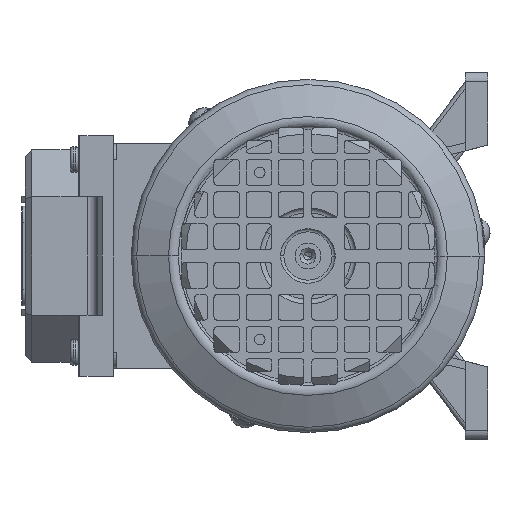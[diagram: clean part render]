
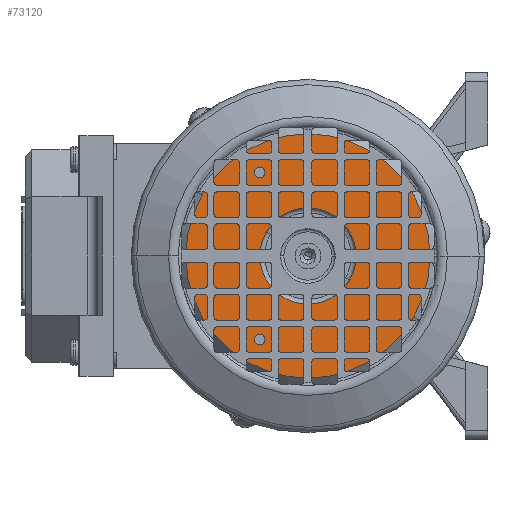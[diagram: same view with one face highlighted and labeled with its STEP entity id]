
A CAD part, left-side view. The second image highlights one B-rep face of the part: STEP entity #73120.
In plain terms, the highlighted planar face has unit normal (-1, 0, 0).
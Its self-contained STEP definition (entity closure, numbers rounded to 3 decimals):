
#541 = VERTEX_POINT ( 'NONE', #66409 ) ;
#884 = FACE_OUTER_BOUND ( 'NONE', #44039, .T. ) ;
#1046 = AXIS2_PLACEMENT_3D ( 'NONE', #9887, #55520, #16468 ) ;
#3051 = CARTESIAN_POINT ( 'NONE',  ( 0., 0., 0. ) ) ;
#4274 = DIRECTION ( 'NONE',  ( -1., 0., 0. ) ) ;
#4677 = EDGE_CURVE ( 'NONE', #31930, #13411, #70919, .T. ) ;
#4754 = VERTEX_POINT ( 'NONE', #62914 ) ;
#5247 = CARTESIAN_POINT ( 'NONE',  ( 0., 0., -15. ) ) ;
#6189 = CARTESIAN_POINT ( 'NONE',  ( 0., 0., 0. ) ) ;
#9642 = DIRECTION ( 'NONE',  ( 0., 0., 1. ) ) ;
#9671 = AXIS2_PLACEMENT_3D ( 'NONE', #17510, #63121, #24069 ) ;
#9887 = CARTESIAN_POINT ( 'NONE',  ( 0., 15., -25.981 ) ) ;
#10394 = AXIS2_PLACEMENT_3D ( 'NONE', #28463, #54441, #35035 ) ;
#12021 = VERTEX_POINT ( 'NONE', #52872 ) ;
#12047 = EDGE_CURVE ( 'NONE', #25997, #32640, #61803, .T. ) ;
#12775 = DIRECTION ( 'NONE',  ( 0., 0., 1. ) ) ;
#13411 = VERTEX_POINT ( 'NONE', #69471 ) ;
#15660 = CARTESIAN_POINT ( 'NONE',  ( 0., -30., 0. ) ) ;
#16209 = ORIENTED_EDGE ( 'NONE', *, *, #52742, .F. ) ;
#16231 = FACE_BOUND ( 'NONE', #64197, .T. ) ;
#16468 = DIRECTION ( 'NONE',  ( 0., 0., 1. ) ) ;
#17510 = CARTESIAN_POINT ( 'NONE',  ( 0., 0., 0. ) ) ;
#18300 = FACE_BOUND ( 'NONE', #38720, .T. ) ;
#19924 = DIRECTION ( 'NONE',  ( -1., 0., 0. ) ) ;
#20282 = EDGE_CURVE ( 'NONE', #12021, #36743, #70745, .T. ) ;
#20830 = EDGE_CURVE ( 'NONE', #42701, #66001, #45906, .T. ) ;
#22243 = DIRECTION ( 'NONE',  ( -1., 0., 0. ) ) ;
#22246 = DIRECTION ( 'NONE',  ( 0., 0., 1. ) ) ;
#23239 = EDGE_CURVE ( 'NONE', #13411, #31930, #48614, .T. ) ;
#24069 = DIRECTION ( 'NONE',  ( 0., 0., 1. ) ) ;
#24297 = CARTESIAN_POINT ( 'NONE',  ( 0., 15., -25.981 ) ) ;
#25997 = VERTEX_POINT ( 'NONE', #60421 ) ;
#26269 = AXIS2_PLACEMENT_3D ( 'NONE', #3051, #48726, #9642 ) ;
#27931 = EDGE_LOOP ( 'NONE', ( #16209, #78043 ) ) ;
#28463 = CARTESIAN_POINT ( 'NONE',  ( 0., 38., 0. ) ) ;
#30836 = DIRECTION ( 'NONE',  ( 0., 0., 1. ) ) ;
#31930 = VERTEX_POINT ( 'NONE', #45606 ) ;
#32640 = VERTEX_POINT ( 'NONE', #71281 ) ;
#33750 = CARTESIAN_POINT ( 'NONE',  ( 0., -30., 0. ) ) ;
#34019 = CIRCLE ( 'NONE', #9671, 38. ) ;
#35035 = DIRECTION ( 'NONE',  ( 0., 0., -1. ) ) ;
#36323 = ORIENTED_EDGE ( 'NONE', *, *, #20830, .T. ) ;
#36743 = VERTEX_POINT ( 'NONE', #5247 ) ;
#38389 = EDGE_CURVE ( 'NONE', #4754, #541, #71555, .T. ) ;
#38447 = ORIENTED_EDGE ( 'NONE', *, *, #20282, .F. ) ;
#38720 = EDGE_LOOP ( 'NONE', ( #56063, #49376 ) ) ;
#39835 = ORIENTED_EDGE ( 'NONE', *, *, #77977, .T. ) ;
#40261 = DIRECTION ( 'NONE',  ( 0., 0., 1. ) ) ;
#41479 = ORIENTED_EDGE ( 'NONE', *, *, #23239, .F. ) ;
#42701 = VERTEX_POINT ( 'NONE', #42781 ) ;
#42781 = CARTESIAN_POINT ( 'NONE',  ( 0., 0., 38. ) ) ;
#43279 = CIRCLE ( 'NONE', #70828, 1.65 ) ;
#43348 = CARTESIAN_POINT ( 'NONE',  ( 0., 0., 0. ) ) ;
#44039 = EDGE_LOOP ( 'NONE', ( #36323, #39835 ) ) ;
#45182 = EDGE_LOOP ( 'NONE', ( #38447, #58256 ) ) ;
#45606 = CARTESIAN_POINT ( 'NONE',  ( 0., 15., -27.631 ) ) ;
#45906 = CIRCLE ( 'NONE', #26269, 38. ) ;
#46016 = CIRCLE ( 'NONE', #49514, 1.65 ) ;
#48614 = CIRCLE ( 'NONE', #77222, 1.65 ) ;
#48651 = AXIS2_PLACEMENT_3D ( 'NONE', #6189, #51871, #12775 ) ;
#48726 = DIRECTION ( 'NONE',  ( -1., 0., 0. ) ) ;
#49376 = ORIENTED_EDGE ( 'NONE', *, *, #12047, .F. ) ;
#49514 = AXIS2_PLACEMENT_3D ( 'NONE', #15660, #61280, #22246 ) ;
#49968 = DIRECTION ( 'NONE',  ( 0., 0., 1. ) ) ;
#51384 = AXIS2_PLACEMENT_3D ( 'NONE', #43348, #4274, #49968 ) ;
#51871 = DIRECTION ( 'NONE',  ( -1., 0., 0. ) ) ;
#52742 = EDGE_CURVE ( 'NONE', #541, #4754, #43279, .T. ) ;
#52872 = CARTESIAN_POINT ( 'NONE',  ( 0., 0., 15. ) ) ;
#54441 = DIRECTION ( 'NONE',  ( 1., 0., 0. ) ) ;
#55520 = DIRECTION ( 'NONE',  ( -1., 0., 0. ) ) ;
#56063 = ORIENTED_EDGE ( 'NONE', *, *, #60099, .F. ) ;
#58256 = ORIENTED_EDGE ( 'NONE', *, *, #63305, .F. ) ;
#58813 = CIRCLE ( 'NONE', #48651, 15. ) ;
#58956 = CARTESIAN_POINT ( 'NONE',  ( 0., 15., 25.981 ) ) ;
#58965 = AXIS2_PLACEMENT_3D ( 'NONE', #33750, #79376, #40261 ) ;
#60099 = EDGE_CURVE ( 'NONE', #32640, #25997, #46016, .T. ) ;
#60421 = CARTESIAN_POINT ( 'NONE',  ( 0., -30., -1.65 ) ) ;
#61271 = CARTESIAN_POINT ( 'NONE',  ( 0., 15., 25.981 ) ) ;
#61280 = DIRECTION ( 'NONE',  ( -1., 0., 0. ) ) ;
#61803 = CIRCLE ( 'NONE', #58965, 1.65 ) ;
#62914 = CARTESIAN_POINT ( 'NONE',  ( 0., 15., 24.331 ) ) ;
#63121 = DIRECTION ( 'NONE',  ( -1., 0., 0. ) ) ;
#63305 = EDGE_CURVE ( 'NONE', #36743, #12021, #58813, .T. ) ;
#64197 = EDGE_LOOP ( 'NONE', ( #41479, #73299 ) ) ;
#65531 = DIRECTION ( 'NONE',  ( 0., 0., 1. ) ) ;
#66001 = VERTEX_POINT ( 'NONE', #66963 ) ;
#66266 = FACE_BOUND ( 'NONE', #27931, .T. ) ;
#66409 = CARTESIAN_POINT ( 'NONE',  ( 0., 15., 27.631 ) ) ;
#66963 = CARTESIAN_POINT ( 'NONE',  ( 0., 0., -38. ) ) ;
#67192 = AXIS2_PLACEMENT_3D ( 'NONE', #61271, #22243, #67878 ) ;
#67597 = PLANE ( 'NONE',  #10394 ) ;
#67878 = DIRECTION ( 'NONE',  ( 0., 0., 1. ) ) ;
#69471 = CARTESIAN_POINT ( 'NONE',  ( 0., 15., -24.331 ) ) ;
#69983 = DIRECTION ( 'NONE',  ( -1., 0., 0. ) ) ;
#70745 = CIRCLE ( 'NONE', #51384, 15. ) ;
#70828 = AXIS2_PLACEMENT_3D ( 'NONE', #58956, #19924, #65531 ) ;
#70919 = CIRCLE ( 'NONE', #1046, 1.65 ) ;
#71281 = CARTESIAN_POINT ( 'NONE',  ( 0., -30., 1.65 ) ) ;
#71555 = CIRCLE ( 'NONE', #67192, 1.65 ) ;
#73120 = ADVANCED_FACE ( 'NONE', ( #16231, #66266, #18300, #83596, #884 ), #67597, .F. ) ;
#73299 = ORIENTED_EDGE ( 'NONE', *, *, #4677, .F. ) ;
#77222 = AXIS2_PLACEMENT_3D ( 'NONE', #24297, #69983, #30836 ) ;
#77977 = EDGE_CURVE ( 'NONE', #66001, #42701, #34019, .T. ) ;
#78043 = ORIENTED_EDGE ( 'NONE', *, *, #38389, .F. ) ;
#79376 = DIRECTION ( 'NONE',  ( -1., 0., 0. ) ) ;
#83596 = FACE_BOUND ( 'NONE', #45182, .T. ) ;
